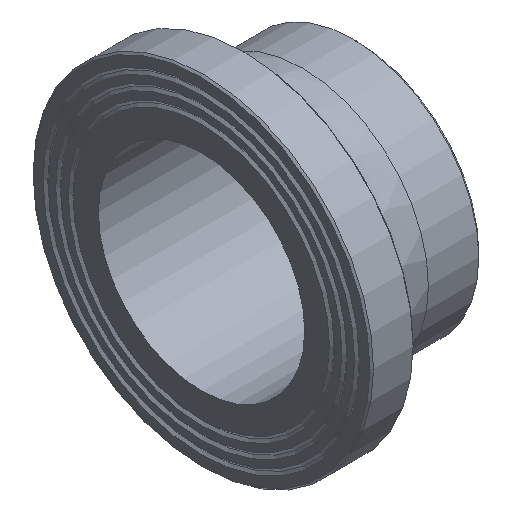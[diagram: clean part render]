
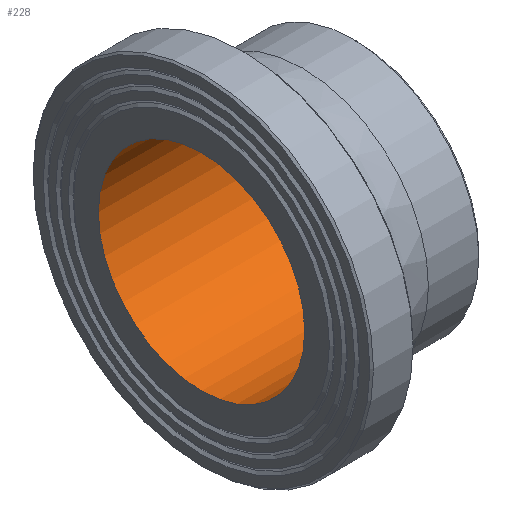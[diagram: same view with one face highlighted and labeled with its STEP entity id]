
A CAD part, isometric view. The second image highlights one B-rep face of the part: STEP entity #228.
In plain terms, the highlighted cylindrical face has radius 57.3 mm (diameter 114.6 mm), a full revolution.
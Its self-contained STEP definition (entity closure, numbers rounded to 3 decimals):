
#33=CYLINDRICAL_SURFACE('',#274,57.3);
#50=ORIENTED_EDGE('',*,*,#79,.F.);
#51=ORIENTED_EDGE('',*,*,#76,.T.);
#76=EDGE_CURVE('',#96,#96,#116,.T.);
#79=EDGE_CURVE('',#99,#99,#119,.T.);
#96=VERTEX_POINT('',#383);
#99=VERTEX_POINT('',#390);
#116=CIRCLE('',#257,57.3);
#119=CIRCLE('',#261,57.3);
#150=EDGE_LOOP('',(#50));
#151=EDGE_LOOP('',(#51));
#190=FACE_BOUND('',#150,.T.);
#191=FACE_BOUND('',#151,.T.);
#228=ADVANCED_FACE('',(#190,#191),#33,.F.);
#257=AXIS2_PLACEMENT_3D('',#382,#303,#304);
#261=AXIS2_PLACEMENT_3D('',#389,#311,#312);
#274=AXIS2_PLACEMENT_3D('',#410,#337,#338);
#303=DIRECTION('',(-1.,0.,0.));
#304=DIRECTION('',(0.,0.,1.));
#311=DIRECTION('',(-1.,0.,0.));
#312=DIRECTION('',(0.,0.,1.));
#337=DIRECTION('',(-1.,0.,0.));
#338=DIRECTION('',(0.,0.,1.));
#382=CARTESIAN_POINT('',(0.,0.,0.));
#383=CARTESIAN_POINT('',(0.,0.,57.3));
#389=CARTESIAN_POINT('',(86.,0.,0.));
#390=CARTESIAN_POINT('',(86.,0.,57.3));
#410=CARTESIAN_POINT('',(60.,0.,0.));
